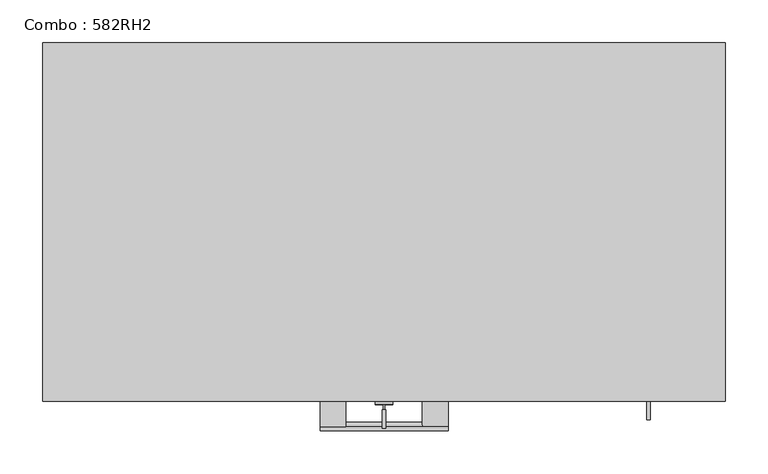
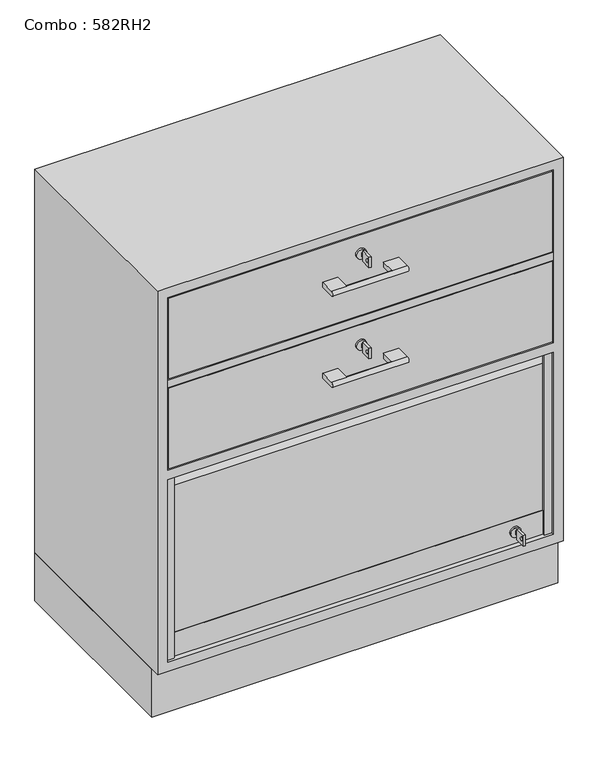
"""IFC4 building model written with IfcOpenShell, lengths in millimetres: furniture geometry, Combo : 582RH2."""

from ifc_helpers import new_model, si_unit, point, frame, frame_2d, origin, origin_with_axes, place, context, project, spatial, polyline, circle_curve, trimmed, segment, composite_curve, outline, extrude, faceted_brep, source, transform, mapped, element, save
from ifc_brep_helpers import plane_surface, cylinder_surface, advanced_brep


def combo_582rh2_982bc437(model_context):
    return source(origin(), model_context, "Body", "SolidModel", [
        extrude(outline(polyline([(-400.0, -400.0), (-400.0, 0.0), (400.0, 0.0), (400.0, -400.0), (-400.0, -400.0)])), origin_with_axes(), (0.0, 0.0, 1.0), 100.0),
        extrude(outline(composite_curve([segment(trimmed(circle_curve(frame_2d((840.0, 0.0)), 10.0), [point((840.0, -10.0))], [point((840.0, 10.0))], False, "CARTESIAN"), True, "CONTINUOUS"), segment(trimmed(circle_curve(frame_2d((840.0, 0.0)), 10.0), [point((840.0, 10.0))], [point((840.0, -10.0))], False, "CARTESIAN"), True, "CONTINUOUS")], self_intersect=False)), frame((0.0, -424.0, 0.0), z_axis=(0.0, 1.0, 0.0), x_axis=(0.0, 0.0, 1.0)), (0.0, 0.0, 1.0), 4.0),
        extrude(outline(polyline([(-452.0, 829.014113), (-452.0, 851.0), (-430.0, 851.0), (-430.0, 829.014113), (-452.0, 829.014113)]), holes=[composite_curve([segment(trimmed(circle_curve(frame_2d((-445.75, 840.0070565)), 3.2230706), [point((-445.75, 843.2301271))], [point((-445.75, 836.7839859))], True, "CARTESIAN"), True, "CONTINUOUS"), segment(trimmed(circle_curve(frame_2d((-445.75, 840.0070565)), 3.2230706), [point((-445.75, 836.7839859))], [point((-445.75, 843.2301271))], True, "CARTESIAN"), True, "CONTINUOUS")], self_intersect=False)]), frame((-2.0, 0.0, 0.0), z_axis=(1.0, 0.0, 0.0), x_axis=(0.0, 1.0, 0.0)), (0.0, 0.0, 1.0), 4.0416064),
        extrude(outline(polyline([(1.0416064, -430.0), (-1.0, -430.0), (-1.0, -424.0), (1.0416064, -424.0), (1.0416064, -430.0)])), frame((0.0, 0.0, 836.014113), z_axis=(0.0, 0.0, 1.0), x_axis=(1.0, 0.0, 0.0)), (0.0, 0.0, 1.0), 7.985887),
        advanced_brep(
        [(-75.0, -450.0, 805.0), (-75.0, -420.0, 805.0), (-75.0, -420.0, 795.0), (-75.0, -450.0, 795.0), (-45.0, -450.0, 795.0), (-45.0, -420.0, 795.0), (-45.0, -420.0, 805.0), (-45.0, -450.0, 805.0), (75.0, -450.0, 805.0), (75.0, -450.0, 795.0), (75.0, -420.0, 795.0), (75.0, -420.0, 805.0), (45.0, -450.0, 805.0), (45.0, -450.0, 795.0), (45.0, -420.0, 805.0), (45.0, -420.0, 795.0)],
        [
            (0, 1),
            (1, 2),
            (2, 3),
            (3, 0, circle_curve(frame((-75.0, -450.0, 800.0), z_axis=(-1.0, 0.0, 0.0), x_axis=(0.0, 0.0, -1.0)), 5.0)),
            (4, 5),
            (5, 6),
            (6, 7),
            (7, 4, circle_curve(frame((-45.0, -450.0, 800.0), z_axis=(-1.0, 0.0, 0.0), x_axis=(0.0, 0.0, -1.0)), 5.0)),
            (2, 5),
            (4, 3),
            (1, 6),
            (0, 7),
            (8, 9, circle_curve(frame((75.0, -450.0, 800.0), z_axis=(1.0, 0.0, 0.0), x_axis=(0.0, 0.0, -1.0)), 5.0)),
            (9, 10),
            (10, 11),
            (11, 8),
            (8, 12),
            (12, 7),
            (4, 13),
            (13, 9),
            (12, 13, circle_curve(frame((45.0, -450.0, 800.0), z_axis=(-1.0, 0.0, 0.0), x_axis=(0.0, 0.0, -1.0)), 5.0)),
            (12, 14),
            (14, 15),
            (15, 13),
            (15, 10),
            (14, 11),
        ],
        [
            plane_surface(frame((-75.0, -450.0, 806.0), z_axis=(-1.0, 0.0, 0.0), x_axis=(0.0, 0.0, 1.0))),
            plane_surface(frame((-45.0, -450.0, 806.0), z_axis=(1.0, 0.0, 0.0), x_axis=(0.0, 0.0, -1.0))),
            plane_surface(frame((-75.0, -420.0, 795.0), z_axis=(0.0, 0.0, -1.0), x_axis=(1.0, 0.0, 0.0))),
            plane_surface(frame((-75.0, -420.0, 805.0), z_axis=(0.0, 1.0, 0.0), x_axis=(1.0, 0.0, 0.0))),
            plane_surface(frame((-75.0, -450.0, 805.0), z_axis=(0.0, 0.0, 1.0), x_axis=(1.0, 0.0, 0.0))),
            plane_surface(frame((75.0, -450.0, 795.0), z_axis=(1.0, 0.0, 0.0), x_axis=(0.0, 1.0, 0.0))),
            cylinder_surface(frame((-75.0, -450.0, 800.0), z_axis=(1.0, 0.0, 0.0), x_axis=(0.0, 0.0, -1.0)), 5.0),
            plane_surface(frame((45.0, -538.7415577, 795.0), z_axis=(-1.0, 0.0, 0.0), x_axis=(0.0, -1.0, 0.0))),
            plane_surface(frame((75.0, -450.0, 795.0), z_axis=(0.0, 0.0, -1.0), x_axis=(-1.0, 0.0, 0.0))),
            plane_surface(frame((75.0, -420.0, 795.0), z_axis=(0.0, 1.0, 0.0), x_axis=(-1.0, 0.0, 0.0))),
            plane_surface(frame((75.0, -420.0, 805.0), z_axis=(0.0, 0.0, 1.0), x_axis=(-1.0, 0.0, 0.0))),
        ],
        [
            (0, [[1, 2, 3, 4]]),
            (1, [[5, 6, 7, 8]]),
            (2, [[-3, 9, -5, 10]]),
            (3, [[-2, 11, -6, -9]]),
            (4, [[-1, 12, -7, -11]]),
            (5, [[13, 14, 15, 16]]),
            (6, [[-13, 17, 18, -12, -4, -10, 19, 20]]),
            (6, [[-8, -18, 21, -19]]),
            (7, [[22, 23, 24, -21]]),
            (8, [[-14, -20, -24, 25]]),
            (9, [[-15, -25, -23, 26]]),
            (10, [[-16, -26, -22, -17]]),
        ],
    ),
        extrude(outline(composite_curve([segment(trimmed(circle_curve(frame_2d((650.0, 0.0)), 10.0), [point((650.0, -10.0))], [point((650.0, 10.0))], False, "CARTESIAN"), True, "CONTINUOUS"), segment(trimmed(circle_curve(frame_2d((650.0, 0.0)), 10.0), [point((650.0, 10.0))], [point((650.0, -10.0))], False, "CARTESIAN"), True, "CONTINUOUS")], self_intersect=False)), frame((0.0, -424.0, 0.0), z_axis=(0.0, 1.0, 0.0), x_axis=(0.0, 0.0, 1.0)), (0.0, 0.0, 1.0), 4.0),
        extrude(outline(polyline([(-452.0, 639.014113), (-452.0, 661.0), (-430.0, 661.0), (-430.0, 639.014113), (-452.0, 639.014113)]), holes=[composite_curve([segment(trimmed(circle_curve(frame_2d((-445.75, 650.0070565)), 3.2230706), [point((-445.75, 653.2301271))], [point((-445.75, 646.7839859))], True, "CARTESIAN"), True, "CONTINUOUS"), segment(trimmed(circle_curve(frame_2d((-445.75, 650.0070565)), 3.2230706), [point((-445.75, 646.7839859))], [point((-445.75, 653.2301271))], True, "CARTESIAN"), True, "CONTINUOUS")], self_intersect=False)]), frame((-2.0, 0.0, 0.0), z_axis=(1.0, 0.0, 0.0), x_axis=(0.0, 1.0, 0.0)), (0.0, 0.0, 1.0), 4.0416064),
        extrude(outline(polyline([(1.0416064, -430.0), (-1.0, -430.0), (-1.0, -424.0), (1.0416064, -424.0), (1.0416064, -430.0)])), frame((0.0, 0.0, 646.014113), z_axis=(0.0, 0.0, 1.0), x_axis=(1.0, 0.0, 0.0)), (0.0, 0.0, 1.0), 7.985887),
        advanced_brep(
        [(-75.0, -450.0, 615.0), (-75.0, -420.0, 615.0), (-75.0, -420.0, 605.0), (-75.0, -450.0, 605.0), (-45.0, -450.0, 605.0), (-45.0, -420.0, 605.0), (-45.0, -420.0, 615.0), (-45.0, -450.0, 615.0), (75.0, -450.0, 615.0), (75.0, -450.0, 605.0), (75.0, -420.0, 605.0), (75.0, -420.0, 615.0), (45.0, -450.0, 615.0), (45.0, -450.0, 605.0), (45.0, -420.0, 615.0), (45.0, -420.0, 605.0)],
        [
            (0, 1),
            (1, 2),
            (2, 3),
            (3, 0, circle_curve(frame((-75.0, -450.0, 610.0), z_axis=(-1.0, 0.0, 0.0), x_axis=(0.0, 0.0, -1.0)), 5.0)),
            (4, 5),
            (5, 6),
            (6, 7),
            (7, 4, circle_curve(frame((-45.0, -450.0, 610.0), z_axis=(-1.0, 0.0, 0.0), x_axis=(0.0, 0.0, -1.0)), 5.0)),
            (2, 5),
            (4, 3),
            (1, 6),
            (0, 7),
            (8, 9, circle_curve(frame((75.0, -450.0, 610.0), z_axis=(1.0, 0.0, 0.0), x_axis=(0.0, 0.0, -1.0)), 5.0)),
            (9, 10),
            (10, 11),
            (11, 8),
            (8, 12),
            (12, 7),
            (4, 13),
            (13, 9),
            (12, 13, circle_curve(frame((45.0, -450.0, 610.0), z_axis=(-1.0, 0.0, 0.0), x_axis=(0.0, 0.0, -1.0)), 5.0)),
            (12, 14),
            (14, 15),
            (15, 13),
            (15, 10),
            (14, 11),
        ],
        [
            plane_surface(frame((-75.0, -450.0, 616.0), z_axis=(-1.0, 0.0, 0.0), x_axis=(0.0, 0.0, 1.0))),
            plane_surface(frame((-45.0, -450.0, 616.0), z_axis=(1.0, 0.0, 0.0), x_axis=(0.0, 0.0, -1.0))),
            plane_surface(frame((-75.0, -420.0, 605.0), z_axis=(0.0, 0.0, -1.0), x_axis=(1.0, 0.0, 0.0))),
            plane_surface(frame((-75.0, -420.0, 615.0), z_axis=(0.0, 1.0, 0.0), x_axis=(1.0, 0.0, 0.0))),
            plane_surface(frame((-75.0, -450.0, 615.0), z_axis=(0.0, 0.0, 1.0), x_axis=(1.0, 0.0, 0.0))),
            plane_surface(frame((75.0, -450.0, 605.0), z_axis=(1.0, 0.0, 0.0), x_axis=(0.0, 1.0, 0.0))),
            cylinder_surface(frame((-75.0, -450.0, 610.0), z_axis=(1.0, 0.0, 0.0), x_axis=(0.0, 0.0, -1.0)), 5.0),
            plane_surface(frame((45.0, -538.7415577, 605.0), z_axis=(-1.0, 0.0, 0.0), x_axis=(0.0, -1.0, 0.0))),
            plane_surface(frame((75.0, -450.0, 605.0), z_axis=(0.0, 0.0, -1.0), x_axis=(-1.0, 0.0, 0.0))),
            plane_surface(frame((75.0, -420.0, 605.0), z_axis=(0.0, 1.0, 0.0), x_axis=(-1.0, 0.0, 0.0))),
            plane_surface(frame((75.0, -420.0, 615.0), z_axis=(0.0, 0.0, 1.0), x_axis=(-1.0, 0.0, 0.0))),
        ],
        [
            (0, [[1, 2, 3, 4]]),
            (1, [[5, 6, 7, 8]]),
            (2, [[-3, 9, -5, 10]]),
            (3, [[-2, 11, -6, -9]]),
            (4, [[-1, 12, -7, -11]]),
            (5, [[13, 14, 15, 16]]),
            (6, [[-13, 17, 18, -12, -4, -10, 19, 20]]),
            (6, [[-8, -18, 21, -19]]),
            (7, [[22, 23, 24, -21]]),
            (8, [[-14, -20, -24, 25]]),
            (9, [[-15, -25, -23, 26]]),
            (10, [[-16, -26, -22, -17]]),
        ],
    ),
        extrude(outline(composite_curve([segment(trimmed(circle_curve(frame_2d((145.0, 310.0)), 10.0), [point((145.0, 300.0))], [point((145.0, 320.0))], False, "CARTESIAN"), True, "CONTINUOUS"), segment(trimmed(circle_curve(frame_2d((145.0, 310.0)), 10.0), [point((145.0, 320.0))], [point((145.0, 300.0))], False, "CARTESIAN"), True, "CONTINUOUS")], self_intersect=False)), frame((0.0, -414.0, 0.0), z_axis=(0.0, 1.0, 0.0), x_axis=(0.0, 0.0, 1.0)), (0.0, 0.0, 1.0), 4.0),
        extrude(outline(polyline([(-442.0, 134.014113), (-442.0, 156.0), (-420.0, 156.0), (-420.0, 134.014113), (-442.0, 134.014113)]), holes=[composite_curve([segment(trimmed(circle_curve(frame_2d((-435.75, 145.0070565)), 3.2230706), [point((-435.75, 148.2301271))], [point((-435.75, 141.7839859))], True, "CARTESIAN"), True, "CONTINUOUS"), segment(trimmed(circle_curve(frame_2d((-435.75, 145.0070565)), 3.2230706), [point((-435.75, 141.7839859))], [point((-435.75, 148.2301271))], True, "CARTESIAN"), True, "CONTINUOUS")], self_intersect=False)]), frame((308.0, 0.0, 0.0), z_axis=(1.0, 0.0, 0.0), x_axis=(0.0, 1.0, 0.0)), (0.0, 0.0, 1.0), 4.0416064),
        extrude(outline(polyline([(311.0416064, -420.0), (309.0, -420.0), (309.0, -414.0), (311.0416064, -414.0), (311.0416064, -420.0)])), frame((0.0, 0.0, 141.014113), z_axis=(0.0, 0.0, 1.0), x_axis=(1.0, 0.0, 0.0)), (0.0, 0.0, 1.0), 7.985887),
        extrude(outline(polyline([(378.0, -400.0), (378.0, -420.0), (-378.0, -420.0), (-378.0, -400.0), (378.0, -400.0)])), frame((0.0, 0.0, 522.0), z_axis=(0.0, 0.0, 1.0), x_axis=(1.0, 0.0, 0.0)), (0.0, 0.0, 1.0), 168.0),
        extrude(outline(polyline([(378.0, -400.0), (378.0, -420.0), (-378.0, -420.0), (-378.0, -400.0), (378.0, -400.0)])), frame((0.0, 0.0, 710.0), z_axis=(0.0, 0.0, 1.0), x_axis=(1.0, 0.0, 0.0)), (0.0, 0.0, 1.0), 168.0),
        extrude(outline(polyline([(380.0, -400.0), (380.0, -410.0), (-380.0, -410.0), (-380.0, -400.0), (380.0, -400.0)])), frame((0.0, 0.0, 120.0), z_axis=(0.0, 0.0, 1.0), x_axis=(1.0, 0.0, 0.0)), (0.0, 0.0, 1.0), 50.0),
        extrude(outline(polyline([(-365.0, -415.0), (-380.0, -415.0), (-380.0, -410.0), (-365.0, -410.0), (-365.0, -415.0)])), frame((0.0, 0.0, 120.0), z_axis=(0.0, 0.0, 1.0), x_axis=(1.0, 0.0, 0.0)), (0.0, 0.0, 1.0), 380.0),
        extrude(outline(polyline([(380.0, -415.0), (365.0, -415.0), (365.0, -410.0), (380.0, -410.0), (380.0, -415.0)])), frame((0.0, 0.0, 120.0), z_axis=(0.0, 0.0, 1.0), x_axis=(1.0, 0.0, 0.0)), (0.0, 0.0, 1.0), 380.0),
        extrude(outline(composite_curve([segment(trimmed(circle_curve(frame_2d((-390.0, 476.5)), 20.0), [point((-410.0, 476.5))], [point((-390.0, 496.5))], False, "CARTESIAN"), True, "CONTINUOUS"), segment(polyline([(-390.0, 496.5), (-355.0, 496.5), (-355.0, 486.5), (-390.0, 486.5)]), True, "CONTINUOUS"), segment(trimmed(circle_curve(frame_2d((-390.0, 476.5)), 10.0), [point((-390.0, 486.5))], [point((-400.0, 476.5))], True, "CARTESIAN"), True, "CONTINUOUS"), segment(polyline([(-400.0, 476.5), (-400.0, 170.0), (-410.0, 170.0), (-410.0, 476.5)]), True, "CONTINUOUS")], self_intersect=False)), frame((-380.0, 0.0, 0.0), z_axis=(1.0, 0.0, 0.0), x_axis=(0.0, 1.0, 0.0)), (0.0, 0.0, 1.0), 760.0),
        extrude(outline(polyline([(380.0, -20.0), (380.0, -420.0), (-380.0, -420.0), (-380.0, -20.0), (380.0, -20.0)])), frame((0.0, 0.0, 692.0), z_axis=(0.0, 0.0, 1.0), x_axis=(1.0, 0.0, 0.0)), (0.0, 0.0, 1.0), 16.0),
        faceted_brep([(400.0, 0.0, 900.0), (-400.0, 0.0, 900.0), (-400.0, -420.0, 900.0), (400.0, -420.0, 900.0), (-400.0, 0.0, 100.0), (400.0, 0.0, 100.0), (400.0, -420.0, 100.0), (-400.0, -420.0, 100.0), (-380.0, -420.0, 500.0), (380.0, -420.0, 500.0), (380.0, -420.0, 120.0), (-380.0, -420.0, 120.0), (-380.0, -420.0, 880.0), (380.0, -420.0, 880.0), (380.0, -420.0, 520.0), (-380.0, -420.0, 520.0), (380.0, -20.0, 120.0), (380.0, -20.0, 500.0), (-380.0, -20.0, 500.0), (-380.0, -20.0, 120.0), (380.0, -20.0, 520.0), (380.0, -20.0, 880.0), (-380.0, -20.0, 880.0), (-380.0, -20.0, 520.0)], [[[0, 1, 2, 3]], [[4, 5, 6, 7]], [[1, 0, 5, 4]], [[2, 1, 4, 7]], [[3, 2, 7, 6], [8, 9, 10, 11], [12, 13, 14, 15]], [[0, 3, 6, 5]], [[16, 17, 18, 19]], [[18, 17, 9, 8]], [[20, 21, 22, 23]], [[22, 21, 13, 12]], [[17, 16, 10, 9]], [[19, 18, 8, 11]], [[16, 19, 11, 10]], [[21, 20, 14, 13]], [[23, 22, 12, 15]], [[20, 23, 15, 14]]]),
    ])


if __name__ == "__main__":
    model = new_model("IFC4")
    model_context = context("Model", 3, world=origin())
    ifc_project = project(units=[si_unit("LENGTHUNIT", "METRE", prefix="MILLI")], contexts=[model_context])
    site = spatial("IfcSite", under=ifc_project)
    building = spatial("IfcBuilding", under=site)
    placement = place(None, origin())
    combo_582rh2_shape = combo_582rh2_982bc437(model_context)
    element("IfcFurniture", 1, ObjectType="Combo : 582RH2", at=placement, inside=building, context=model_context, shape_type="MappedRepresentation", body=[
        mapped(combo_582rh2_shape, transform((0.0, 0.0, 0.0), x_axis=(1.0, 0.0, 0.0), y_axis=(0.0, 1.0, 0.0), z_axis=(0.0, 0.0, 1.0))),
    ])
    save(model, "model.ifc")
